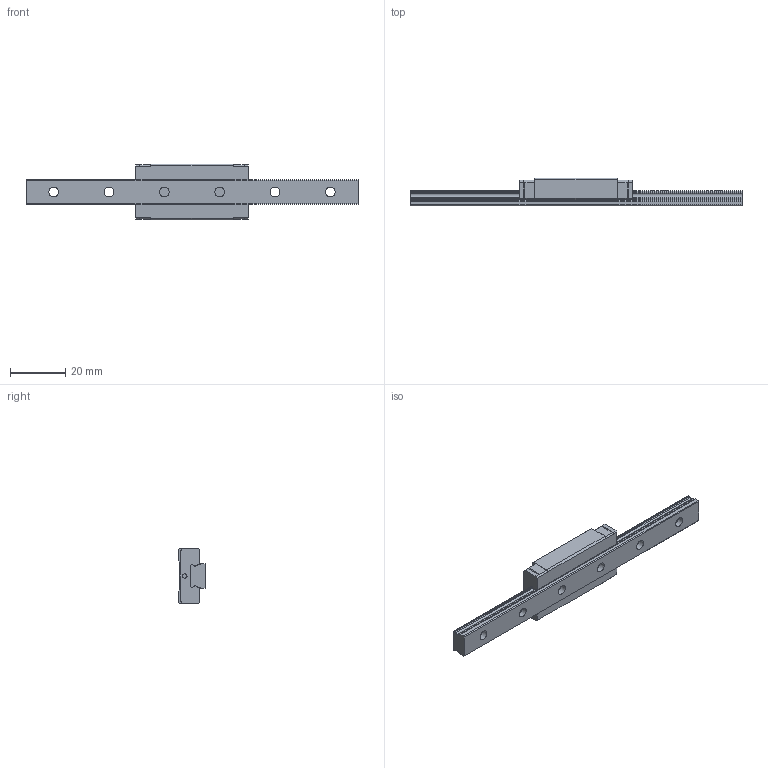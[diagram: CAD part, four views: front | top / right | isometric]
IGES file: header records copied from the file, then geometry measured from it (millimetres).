
Start section: Data from Parasolid IGES Translator 26.0.171, Copyright(c) 2006 Siemens PLM Software. All Rights Reserved.
Global section: file name: RSX9NMUU-120LM_G10_0_Without grease nipple_39-6_0_0_0_1.igs; native system: By Siemens PLM Incorporated; preprocessor: XPlus GENERIC/IGES 26.0.171; author: Noname; organization: Noname; date: 20240521.102530; units: millimetre
Bounding box: 120 x 10 x 20 mm (x, y, z)
Surface area: 6824 mm2 (no closed solid volume)
Topology: 0 solids, 0 shells, 132 faces, 724 edges, 692 vertices
Faces by surface type: extrusion 80, revolution 52
